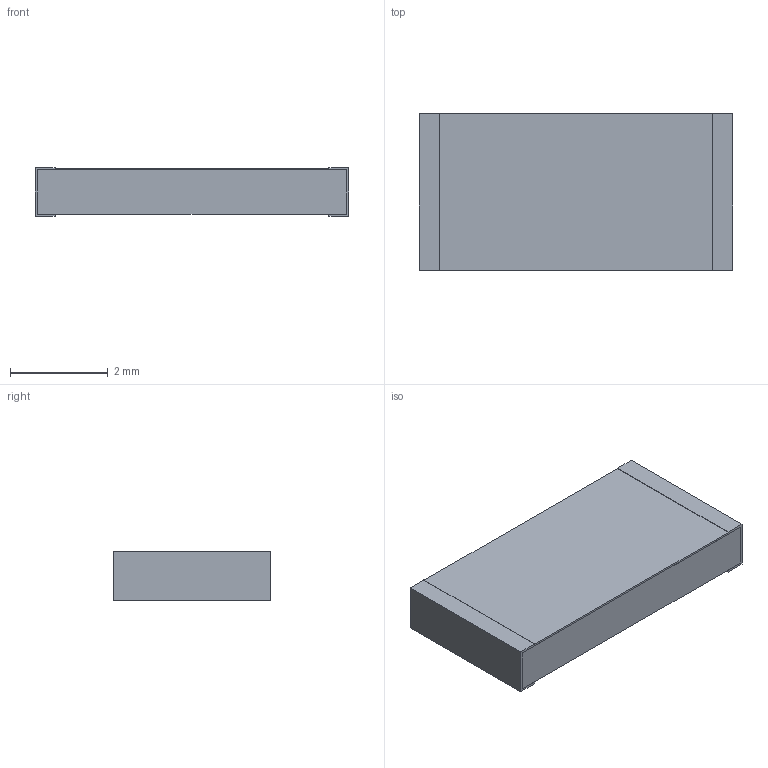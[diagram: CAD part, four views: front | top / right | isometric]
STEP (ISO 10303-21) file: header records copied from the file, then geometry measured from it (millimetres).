
FILE_DESCRIPTION(('STEP AP203'), '1');
FILE_NAME('Ð1-16Ï-0,5', '', ('UNSPECIFIED'), ('UNSPECIFIED'), 'ASCON STEP Converter 1.6', 'ASCON Math Kernel', '');
FILE_SCHEMA(('CONFIG_CONTROL_DESIGN'));
Length unit declared in the file: millimetre
Bounding box: 6.4 x 3.2 x 1 mm (x, y, z)
Volume: 19.4 mm3; surface area: 116.7 mm2
Topology: 4 solids, 4 shells, 32 faces, 72 edges, 48 vertices
Faces by surface type: plane 32
Entity records: 1194 total; most frequent: CARTESIAN_POINT 153, ORIENTED_EDGE 144, DIRECTION 138, EDGE_CURVE 72, LINE 72, VECTOR 72, VERTEX_POINT 48, COLOUR_RGB 36
